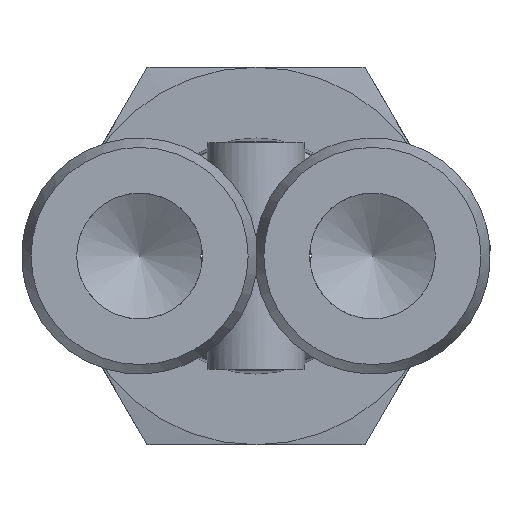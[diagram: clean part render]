
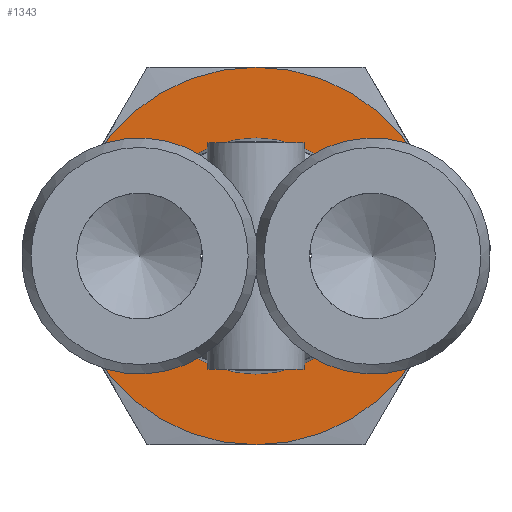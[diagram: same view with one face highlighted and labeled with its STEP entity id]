
A CAD part, front view. The second image highlights one B-rep face of the part: STEP entity #1343.
In plain terms, the highlighted planar face has unit normal (0, -1, 0).
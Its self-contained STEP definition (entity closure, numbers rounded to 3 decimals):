
#108=FACE_BOUND('',#295,.T.);
#134=PLANE('',#1530);
#206=FACE_OUTER_BOUND('',#294,.T.);
#294=EDGE_LOOP('',(#1230,#1231,#1232,#1233,#1234,#1235));
#295=EDGE_LOOP('',(#1236,#1237));
#485=CIRCLE('',#1499,12.);
#486=CIRCLE('',#1501,12.);
#487=CIRCLE('',#1503,12.);
#488=CIRCLE('',#1505,12.);
#489=CIRCLE('',#1507,12.);
#490=CIRCLE('',#1509,12.);
#499=CIRCLE('',#1531,7.);
#500=CIRCLE('',#1532,7.);
#612=VERTEX_POINT('',#2614);
#613=VERTEX_POINT('',#2618);
#615=VERTEX_POINT('',#2625);
#617=VERTEX_POINT('',#2635);
#619=VERTEX_POINT('',#2648);
#621=VERTEX_POINT('',#2658);
#637=VERTEX_POINT('',#2735);
#638=VERTEX_POINT('',#2736);
#798=EDGE_CURVE('',#612,#613,#485,.T.);
#801=EDGE_CURVE('',#615,#612,#486,.T.);
#804=EDGE_CURVE('',#617,#615,#487,.T.);
#806=EDGE_CURVE('',#619,#617,#488,.T.);
#809=EDGE_CURVE('',#621,#619,#489,.T.);
#812=EDGE_CURVE('',#613,#621,#490,.T.);
#838=EDGE_CURVE('',#637,#638,#499,.T.);
#839=EDGE_CURVE('',#638,#637,#500,.T.);
#1230=ORIENTED_EDGE('',*,*,#812,.T.);
#1231=ORIENTED_EDGE('',*,*,#809,.T.);
#1232=ORIENTED_EDGE('',*,*,#806,.T.);
#1233=ORIENTED_EDGE('',*,*,#804,.T.);
#1234=ORIENTED_EDGE('',*,*,#801,.T.);
#1235=ORIENTED_EDGE('',*,*,#798,.T.);
#1236=ORIENTED_EDGE('',*,*,#838,.F.);
#1237=ORIENTED_EDGE('',*,*,#839,.F.);
#1343=ADVANCED_FACE('',(#206,#108),#134,.T.);
#1499=AXIS2_PLACEMENT_3D('',#2622,#1847,#1848);
#1501=AXIS2_PLACEMENT_3D('',#2632,#1851,#1852);
#1503=AXIS2_PLACEMENT_3D('',#2642,#1855,#1856);
#1505=AXIS2_PLACEMENT_3D('',#2649,#1859,#1860);
#1507=AXIS2_PLACEMENT_3D('',#2659,#1863,#1864);
#1509=AXIS2_PLACEMENT_3D('',#2668,#1867,#1868);
#1530=AXIS2_PLACEMENT_3D('',#2734,#1919,#1920);
#1531=AXIS2_PLACEMENT_3D('',#2737,#1921,#1922);
#1532=AXIS2_PLACEMENT_3D('',#2738,#1923,#1924);
#1847=DIRECTION('center_axis',(0.,-1.,0.));
#1848=DIRECTION('ref_axis',(1.,0.,0.));
#1851=DIRECTION('center_axis',(0.,-1.,0.));
#1852=DIRECTION('ref_axis',(1.,0.,0.));
#1855=DIRECTION('center_axis',(0.,-1.,0.));
#1856=DIRECTION('ref_axis',(1.,0.,0.));
#1859=DIRECTION('center_axis',(0.,-1.,0.));
#1860=DIRECTION('ref_axis',(1.,0.,0.));
#1863=DIRECTION('center_axis',(0.,-1.,0.));
#1864=DIRECTION('ref_axis',(1.,0.,0.));
#1867=DIRECTION('center_axis',(0.,-1.,0.));
#1868=DIRECTION('ref_axis',(1.,0.,0.));
#1919=DIRECTION('center_axis',(0.,-1.,0.));
#1920=DIRECTION('ref_axis',(0.,0.,-1.));
#1921=DIRECTION('center_axis',(0.,-1.,0.));
#1922=DIRECTION('ref_axis',(1.,0.,0.));
#1923=DIRECTION('center_axis',(0.,-1.,0.));
#1924=DIRECTION('ref_axis',(1.,0.,0.));
#2614=CARTESIAN_POINT('',(10.392,19.7,-6.));
#2618=CARTESIAN_POINT('',(10.392,19.7,6.));
#2622=CARTESIAN_POINT('Origin',(0.,19.7,0.));
#2625=CARTESIAN_POINT('',(0.,19.7,-12.));
#2632=CARTESIAN_POINT('Origin',(0.,19.7,0.));
#2635=CARTESIAN_POINT('',(-10.392,19.7,-6.));
#2642=CARTESIAN_POINT('Origin',(0.,19.7,0.));
#2648=CARTESIAN_POINT('',(-10.392,19.7,6.));
#2649=CARTESIAN_POINT('Origin',(0.,19.7,0.));
#2658=CARTESIAN_POINT('',(0.,19.7,12.));
#2659=CARTESIAN_POINT('Origin',(0.,19.7,0.));
#2668=CARTESIAN_POINT('Origin',(0.,19.7,0.));
#2734=CARTESIAN_POINT('Origin',(7.,19.7,0.));
#2735=CARTESIAN_POINT('',(7.,19.7,0.));
#2736=CARTESIAN_POINT('',(-7.,19.7,0.));
#2737=CARTESIAN_POINT('Origin',(0.,19.7,0.));
#2738=CARTESIAN_POINT('Origin',(0.,19.7,0.));
